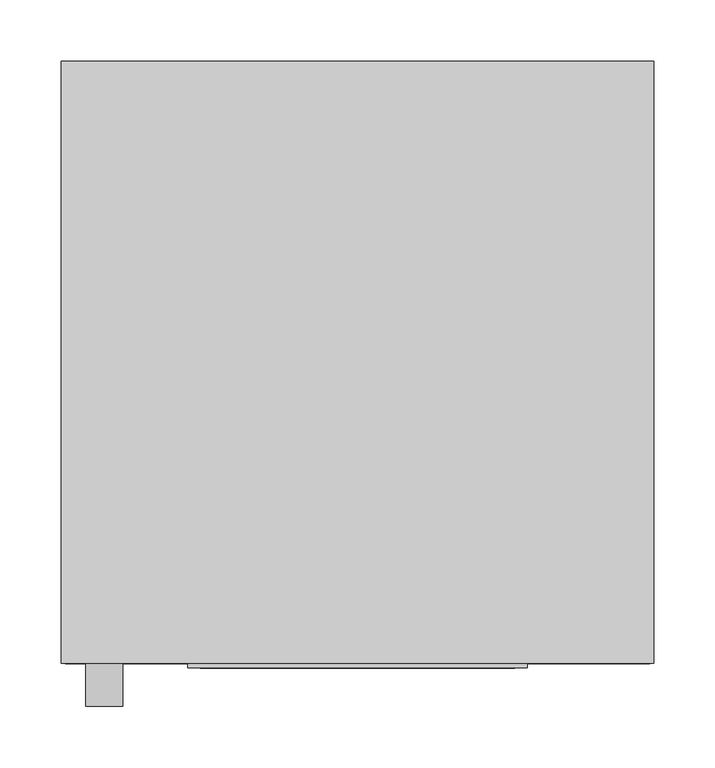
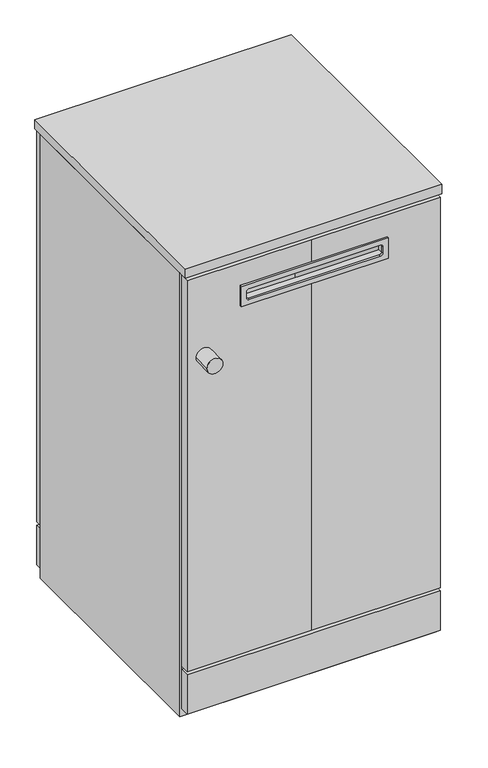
"""IFC4 building model written with IfcOpenShell, lengths in millimetres: furniture geometry, Apex - 1 DOOR - LOW STORAGE CONFIDENTIAL WASTE : APEX-SW-18-CONF1 Confidential waste 500mm(w) x 490mm(d) x 900mm(h)."""

import ifcopenshell
import ifcopenshell.guid

model = None  # the IFC model being written
_history = None  # IfcOwnerHistory: only IFC2X3 demands one
_inside = {}  # id of a spatial element -> (the spatial element, [elements in it])
_under = {}  # id of a project, library or spatial element -> (it, [spatial elements below it])
_declared = {}  # id of a project -> (the project, [libraries it declares])
_typed = {}  # id of a type object -> (the type object, [elements of that type])
_made_of = {}  # id of a material, layer set ... -> (it, [elements and type objects made of it])


def new_model(schema):
    """Start an empty IFC model of exactly this schema.

    Asked for "IFC4X3", IfcOpenShell would pick the latest addendum, in which some entities
    have other attributes; the version numbers below select the first issue.
    IFC2X3 requires an IfcOwnerHistory on every rooted entity: one is made here for all.
    """
    global model, _history
    if schema == "IFC4X3":
        model = ifcopenshell.file(schema_version=(4, 3, 0, 0))
    else:
        model = ifcopenshell.file(schema=schema)
    _inside.clear()
    _under.clear()
    _declared.clear()
    _typed.clear()
    _made_of.clear()
    _history = None
    if model.schema == "IFC2X3":
        org = make("IfcOrganization", Name="unknown")
        user = make(
            "IfcPersonAndOrganization",
            ThePerson=make("IfcPerson", FamilyName="unknown"),
            TheOrganization=org,
        )
        app = make(
            "IfcApplication",
            ApplicationDeveloper=org,
            Version="unknown",
            ApplicationFullName="unknown",
            ApplicationIdentifier="unknown",
        )
        _history = make(
            "IfcOwnerHistory",
            OwningUser=user,
            OwningApplication=app,
            ChangeAction="ADDED",
            CreationDate=0,
        )
    return model


def make(cls, **values):
    """One entity of the class cls with the attributes given. An attribute that is None is left unset."""
    return model.create_entity(
        cls, **{name: value for name, value in values.items() if value is not None}
    )


def rooted(cls, **values):
    """An entity with a GlobalId (a new one), such as an element, a storey or a relation."""
    return make(cls, GlobalId=ifcopenshell.guid.new(), OwnerHistory=_history, **values)


def si_unit(unit_type, name, prefix=None):
    """IfcSIUnit, for example si_unit("LENGTHUNIT", "METRE", prefix="MILLI")."""
    return make("IfcSIUnit", UnitType=unit_type, Prefix=prefix, Name=name)


def assignment(units):
    """IfcUnitAssignment: the units of a project."""
    return None if units is None else make("IfcUnitAssignment", Units=units)


def point(xyz):
    """IfcCartesianPoint."""
    return None if xyz is None else make("IfcCartesianPoint", Coordinates=xyz)


def direction(xyz):
    """IfcDirection."""
    return None if xyz is None else make("IfcDirection", DirectionRatios=xyz)


def frame(location, z_axis=None, x_axis=None):
    """IfcAxis2Placement3D, a coordinate frame: its origin and axes. An axis left out is left unset."""
    return make(
        "IfcAxis2Placement3D",
        Location=point(location),
        Axis=direction(z_axis),
        RefDirection=direction(x_axis),
    )


def frame_2d(location, x_axis=None):
    """IfcAxis2Placement2D, a coordinate frame in the plane: its origin and x axis."""
    return make(
        "IfcAxis2Placement2D", Location=point(location), RefDirection=direction(x_axis)
    )


def origin():
    """The frame at (0, 0, 0) with its axes left unset."""
    return frame((0.0, 0.0, 0.0))


def place(relative_to, where):
    """IfcLocalPlacement: puts the frame where relative to a parent placement (None: the world)."""
    return make(
        "IfcLocalPlacement", PlacementRelTo=relative_to, RelativePlacement=where
    )


def context(
    kind, dimensions, precision=None, world=None, true_north=None, identifier=None
):
    """IfcGeometricRepresentationContext, for example the 3D "Model" context."""
    return make(
        "IfcGeometricRepresentationContext",
        ContextIdentifier=identifier,
        ContextType=kind,
        CoordinateSpaceDimension=dimensions,
        Precision=precision,
        WorldCoordinateSystem=world,
        TrueNorth=true_north,
    )


def project(units=None, contexts=None):
    """IfcProject with its units and contexts."""
    return rooted(
        "IfcProject",
        Name="project",
        RepresentationContexts=contexts,
        UnitsInContext=assignment(units),
    )


def spatial(cls, under=None, at=None, **own):
    """A site, building, storey or space (cls), placed at a placement, below another one or the project."""
    s = rooted(cls, ObjectPlacement=at, **own)
    if under is not None:
        _under.setdefault(under.id(), (under, []))[1].append(s)
    return s


def polyline(points):
    """IfcPolyline through the points."""
    return make("IfcPolyline", Points=[point(p) for p in points])


def circle_curve(where, radius):
    """IfcCircle in the frame where."""
    return make("IfcCircle", Position=where, Radius=radius)


def trimmed(basis, trim1, trim2, sense, master):
    """IfcTrimmedCurve: the piece of a basis curve between two trims."""
    return make(
        "IfcTrimmedCurve",
        BasisCurve=basis,
        Trim1=trim1,
        Trim2=trim2,
        SenseAgreement=sense,
        MasterRepresentation=master,
    )


def segment(curve, same_sense, transition):
    """IfcCompositeCurveSegment."""
    return make(
        "IfcCompositeCurveSegment",
        Transition=transition,
        SameSense=same_sense,
        ParentCurve=curve,
    )


def composite_curve(segments, self_intersect=None):
    """IfcCompositeCurve: segments joined end to end."""
    return make("IfcCompositeCurve", Segments=segments, SelfIntersect=self_intersect)


def outline(outer, holes=None, kind="AREA"):
    """IfcArbitraryClosedProfileDef: a profile drawn as a closed curve; with holes, ...WithVoids."""
    if holes is None:
        return make("IfcArbitraryClosedProfileDef", ProfileType=kind, OuterCurve=outer)
    return make(
        "IfcArbitraryProfileDefWithVoids",
        ProfileType=kind,
        OuterCurve=outer,
        InnerCurves=holes,
    )


def extrude(swept, where, along, depth):
    """IfcExtrudedAreaSolid: the profile swept, set in the frame where, extruded along a direction by depth."""
    return make(
        "IfcExtrudedAreaSolid",
        SweptArea=swept,
        Position=where,
        ExtrudedDirection=direction(along),
        Depth=depth,
    )


def faces_of(points, faces, orient=None, outer=None):
    """IfcFace entities. A face is a list of loops; a loop is a list of indices into points, from 0.

    orient and outer hold one flag for each loop. By default every Orientation is true, the
    first loop of a face is its IfcFaceOuterBound and the others are IfcFaceBound.
    """
    made = []
    for i, loops in enumerate(faces):
        bounds = []
        for j, loop in enumerate(loops):
            is_outer = j == 0 if outer is None else outer[i][j]
            bounds.append(
                make(
                    "IfcFaceOuterBound" if is_outer else "IfcFaceBound",
                    Bound=make("IfcPolyLoop", Polygon=[points[k] for k in loop]),
                    Orientation=True if orient is None else orient[i][j],
                )
            )
        made.append(make("IfcFace", Bounds=bounds))
    return made


def faceted_brep(points, faces, orient=None, outer=None, voids=None):
    """IfcFacetedBrep: a solid bounded by flat faces; with voids (closed shells), ...WithVoids."""
    shared = [point(p) for p in points]
    hull = make("IfcClosedShell", CfsFaces=faces_of(shared, faces, orient, outer))
    if voids is None:
        return make("IfcFacetedBrep", Outer=hull)
    return make(
        "IfcFacetedBrepWithVoids",
        Outer=hull,
        Voids=[
            make(cls, CfsFaces=faces_of(shared, fs, o, b)) for cls, fs, o, b in voids
        ],
    )


def shape(context_of_items, identifier, shape_type, items):
    """IfcShapeRepresentation: the items that make up one representation, for example the "Body"."""
    return make(
        "IfcShapeRepresentation",
        ContextOfItems=context_of_items,
        RepresentationIdentifier=identifier,
        RepresentationType=shape_type,
        Items=items,
    )


def source(mapping_origin, context_of_items, identifier, shape_type, items):
    """IfcRepresentationMap: a shape defined once, which mapped items show again and again."""
    return make(
        "IfcRepresentationMap",
        MappingOrigin=mapping_origin,
        MappedRepresentation=shape(context_of_items, identifier, shape_type, items),
    )


def transform(
    local_origin,
    x_axis=None,
    y_axis=None,
    z_axis=None,
    scale=None,
    scale2=None,
    scale3=None,
    uniform=True,
):
    """IfcCartesianTransformationOperator3D, or its non-uniform kind. x_axis, y_axis, z_axis: its Axis1, 2, 3."""
    if uniform:
        return make(
            "IfcCartesianTransformationOperator3D",
            Axis1=direction(x_axis),
            Axis2=direction(y_axis),
            LocalOrigin=point(local_origin),
            Scale=scale,
            Axis3=direction(z_axis),
        )
    return make(
        "IfcCartesianTransformationOperator3DnonUniform",
        Axis1=direction(x_axis),
        Axis2=direction(y_axis),
        LocalOrigin=point(local_origin),
        Scale=scale,
        Axis3=direction(z_axis),
        Scale2=scale2,
        Scale3=scale3,
    )


def mapped(mapping_source, mapping_target):
    """IfcMappedItem: shows the shape of a source again, moved by a transform."""
    return make(
        "IfcMappedItem", MappingSource=mapping_source, MappingTarget=mapping_target
    )


def made_of(thing, what):
    """Note that an element or type object is made of a material, layer set ...; save() writes the relation."""
    if what is not None:
        _made_of.setdefault(what.id(), (what, []))[1].append(thing)
    return thing


def element(
    cls,
    number,
    at=None,
    inside=None,
    cuts=None,
    type_object=None,
    material=None,
    context=None,
    identifier="Body",
    shape_type=None,
    held_by="IfcProductDefinitionShape",
    body=None,
    shapes=None,
    **own,
):
    """One element of the class cls, such as IfcWall. Its Tag is "e" and its number.

    at: its placement. inside: the storey or other place that contains it. cuts: it is an
    opening in that element (IfcRelVoidsElement). A single representation is given by context,
    identifier, shape_type and body (its items); several are given by shapes. held_by: the class
    of the entity that holds the representations. save() writes the other relations.
    """
    e = rooted(cls, Tag="e%d" % number, ObjectPlacement=at, **own)
    if body is not None:
        shapes = [shape(context, identifier, shape_type, body)]
    if shapes is not None:
        e.Representation = make(held_by, Representations=shapes)
    if inside is not None:
        _inside.setdefault(inside.id(), (inside, []))[1].append(e)
    if cuts is not None:
        rooted(
            "IfcRelVoidsElement", RelatingBuildingElement=cuts, RelatedOpeningElement=e
        )
    if type_object is not None:
        _typed.setdefault(type_object.id(), (type_object, []))[1].append(e)
    return made_of(e, material)


def aggregate(whole, parts):
    """IfcRelAggregates: a whole, such as a stair, and the parts it consists of."""
    return rooted("IfcRelAggregates", RelatingObject=whole, RelatedObjects=parts)


def save(model, path):
    """Write the relations noted so far, then the file.

    IfcRelAggregates (storeys below a building ...), IfcRelContainedInSpatialStructure (elements
    in a storey), IfcRelDefinesByType, IfcRelAssociatesMaterial and IfcRelDeclares: one each for
    every whole, place, type object, material and project.
    """
    for whole, parts in _under.values():
        aggregate(whole, parts)
    for where, things in _inside.values():
        rooted(
            "IfcRelContainedInSpatialStructure",
            RelatedElements=things,
            RelatingStructure=where,
        )
    for kind, things in _typed.values():
        rooted("IfcRelDefinesByType", RelatedObjects=things, RelatingType=kind)
    for what, things in _made_of.values():
        rooted("IfcRelAssociatesMaterial", RelatedObjects=things, RelatingMaterial=what)
    for by, libraries in _declared.values():
        rooted("IfcRelDeclares", RelatingContext=by, RelatedDefinitions=libraries)
    model.write(path)


def furniture_b37215d3(model_context):
    return source(origin(), model_context, "Body", "SolidModel", [
        extrude(outline(polyline([(832.2054431, 103.0), (792.2054431, 103.0), (792.2054431, 379.0), (832.2054431, 379.0), (832.2054431, 103.0)]), holes=[composite_curve([segment(polyline([(822.7742461, 118.0), (822.7742461, 364.0)]), True, "CONTINUOUS"), segment(trimmed(circle_curve(frame_2d((817.7742461, 364.0)), 5.0), [point((822.7742461, 364.0))], [point((817.7742461, 369.0))], True, "CARTESIAN"), True, "CONTINUOUS"), segment(polyline([(817.7742461, 369.0), (806.2054431, 369.0)]), True, "CONTINUOUS"), segment(trimmed(circle_curve(frame_2d((806.2054431, 364.0)), 5.0), [point((806.2054431, 369.0))], [point((801.2054431, 364.0))], True, "CARTESIAN"), True, "CONTINUOUS"), segment(polyline([(801.2054431, 364.0), (801.2054431, 118.0)]), True, "CONTINUOUS"), segment(trimmed(circle_curve(frame_2d((806.2054431, 118.0)), 5.0), [point((801.2054431, 118.0))], [point((806.2054431, 113.0))], True, "CARTESIAN"), True, "CONTINUOUS"), segment(polyline([(806.2054431, 113.0), (817.7742461, 113.0)]), True, "CONTINUOUS"), segment(trimmed(circle_curve(frame_2d((817.7742461, 118.0)), 5.0), [point((817.7742461, 113.0))], [point((822.7742461, 118.0))], True, "CARTESIAN"), True, "CONTINUOUS")], self_intersect=False)]), frame((0.0, -493.742038, 0.0), z_axis=(0.0, 1.0, 0.0), x_axis=(0.0, 0.0, 1.0)), (0.0, 0.0, 1.0), 3.742038),
        extrude(outline(polyline([(482.0, -490.0), (0.0, -490.0), (0.0, 0.0), (482.0, 0.0), (482.0, -490.0)])), frame((0.0, 0.0, 882.0), z_axis=(0.0, 0.0, 1.0), x_axis=(1.0, 0.0, 0.0)), (0.0, 0.0, 1.0), 18.0),
        extrude(outline(composite_curve([segment(trimmed(circle_curve(frame_2d((717.0, 35.0)), 15.0), [point((717.0, 20.0))], [point((717.0, 50.0))], False, "CARTESIAN"), True, "CONTINUOUS"), segment(trimmed(circle_curve(frame_2d((717.0, 35.0)), 15.0), [point((717.0, 50.0))], [point((717.0, 20.0))], False, "CARTESIAN"), True, "CONTINUOUS")], self_intersect=False)), frame((0.0, -525.0, 0.0), z_axis=(0.0, 1.0, 0.0), x_axis=(0.0, 0.0, 1.0)), (0.0, 0.0, 1.0), 35.0),
        extrude(outline(polyline([(882.0, 482.0), (882.0, 0.0), (0.0, 0.0), (0.0, 482.0), (882.0, 482.0)]), holes=[polyline([(25.0, 479.0), (25.0, 3.0), (857.0, 3.0), (857.0, 479.0), (25.0, 479.0)])]), frame((0.0, -472.0, 0.0), z_axis=(0.0, 1.0, 0.0), x_axis=(0.0, 0.0, 1.0)), (0.0, 0.0, 1.0), 454.0),
        faceted_brep([(236.0, -472.0, 876.0), (3.0, -472.0, 876.0), (3.0, -490.0, 876.0), (236.0, -490.0, 876.0), (479.0, -490.0, 876.0), (479.0, -472.0, 876.0), (236.0, -472.0, 100.0), (479.0, -472.0, 100.0), (479.0, -490.0, 100.0), (236.0, -490.0, 100.0), (3.0, -490.0, 100.0), (3.0, -472.0, 100.0), (236.0, -472.0, 827.2054431), (109.0, -472.0, 827.2054431), (109.0, -472.0, 797.2054431), (236.0, -472.0, 797.2054431), (236.0, -490.0, 797.2054431), (109.0, -490.0, 797.2054431), (109.0, -490.0, 827.2054431), (236.0, -490.0, 827.2054431), (374.0, -472.0, 797.2054431), (374.0, -472.0, 827.2054431), (374.0, -490.0, 827.2054431), (374.0, -490.0, 797.2054431)], [[[0, 1, 2, 3, 4, 5]], [[6, 7, 8, 9, 10, 11]], [[1, 0, 12, 13, 14, 15, 6, 11]], [[2, 1, 11, 10]], [[3, 2, 10, 9, 16, 17, 18, 19]], [[5, 4, 8, 7]], [[0, 5, 7, 6, 15, 20, 21, 12]], [[4, 3, 19, 22, 23, 16, 9, 8]], [[13, 18, 17, 14]], [[14, 17, 16, 23, 20, 15]], [[20, 23, 22, 21]], [[18, 13, 12, 21, 22, 19]]]),
        extrude(outline(polyline([(479.0, 0.0), (479.0, -18.0), (3.0, -18.0), (3.0, 0.0), (479.0, 0.0)])), frame((0.0, 0.0, 100.0), z_axis=(0.0, 0.0, 1.0), x_axis=(1.0, 0.0, 0.0)), (0.0, 0.0, 1.0), 776.0),
        extrude(outline(polyline([(479.0, -18.0), (3.0, -18.0), (3.0, 0.0), (479.0, 0.0), (479.0, -18.0)])), frame((0.0, 0.0, 15.0), z_axis=(0.0, 0.0, 1.0), x_axis=(1.0, 0.0, 0.0)), (0.0, 0.0, 1.0), 79.0),
        extrude(outline(polyline([(479.0, -490.0), (3.0, -490.0), (3.0, -472.0), (479.0, -472.0), (479.0, -490.0)])), frame((0.0, 0.0, 15.0), z_axis=(0.0, 0.0, 1.0), x_axis=(1.0, 0.0, 0.0)), (0.0, 0.0, 1.0), 79.0),
    ])


if __name__ == "__main__":
    model = new_model("IFC4")
    model_context = context("Model", 3, world=origin())
    ifc_project = project(units=[si_unit("LENGTHUNIT", "METRE", prefix="MILLI")], contexts=[model_context])
    site = spatial("IfcSite", under=ifc_project)
    building = spatial("IfcBuilding", under=site)
    placement = place(None, origin())
    furniture_shape = furniture_b37215d3(model_context)
    element("IfcFurniture", 1, ObjectType="Apex - 1 DOOR - LOW STORAGE CONFIDENTIAL WASTE : APEX-SW-18-CONF1 Confidential waste 500mm(w) x 490mm(d) x 900mm(h)", at=placement, inside=building, context=model_context, shape_type="MappedRepresentation", body=[
        mapped(furniture_shape, transform((0.0, 0.0, 0.0), x_axis=(1.0, 0.0, 0.0), y_axis=(0.0, 1.0, 0.0), z_axis=(0.0, 0.0, 1.0))),
    ])
    save(model, "model.ifc")
